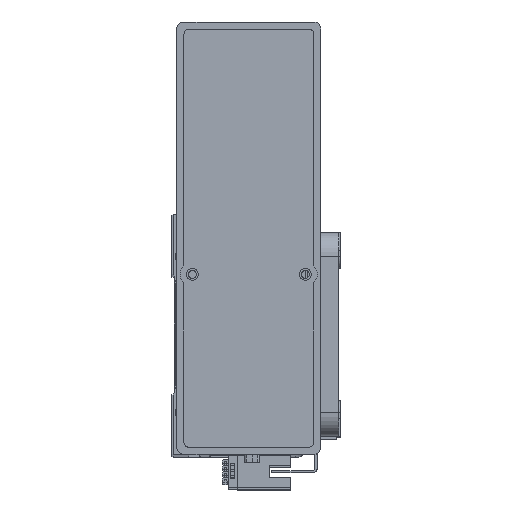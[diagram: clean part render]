
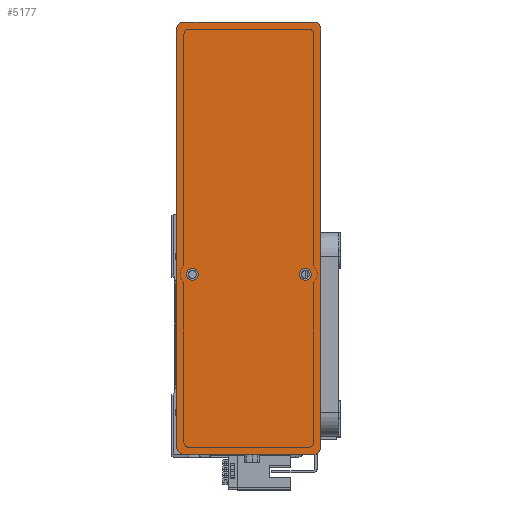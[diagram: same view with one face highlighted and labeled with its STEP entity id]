
A CAD part, top view. The second image highlights one B-rep face of the part: STEP entity #5177.
In plain terms, the highlighted planar face has unit normal (0, 0, 1) as drawn and (0, 0, -1) by its records, which use the part's own axes.
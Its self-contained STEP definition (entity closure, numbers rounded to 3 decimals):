
#152 = EDGE_CURVE ( 'NONE', #18841, #39145, #20765, .T. ) ;
#348 = DIRECTION ( 'NONE',  ( 0., 0., -1. ) ) ;
#412 = CARTESIAN_POINT ( 'NONE',  ( 90., -30., 0. ) ) ;
#690 = VERTEX_POINT ( 'NONE', #30798 ) ;
#1176 = AXIS2_PLACEMENT_3D ( 'NONE', #55703, #28867, #2041 ) ;
#2041 = DIRECTION ( 'NONE',  ( 1., 0., 0. ) ) ;
#2502 = LINE ( 'NONE', #52250, #36866 ) ;
#2778 = DIRECTION ( 'NONE',  ( -1., 0., 0. ) ) ;
#3951 = FACE_BOUND ( 'NONE', #19183, .T. ) ;
#4522 = EDGE_CURVE ( 'NONE', #38477, #54876, #11069, .T. ) ;
#4831 = AXIS2_PLACEMENT_3D ( 'NONE', #37101, #10261, #41609 ) ;
#5177 = ADVANCED_FACE ( 'NONE', ( #26398, #3951, #50229 ), #53019, .F. ) ;
#6440 = VERTEX_POINT ( 'NONE', #51587 ) ;
#7401 = EDGE_CURVE ( 'NONE', #6440, #9988, #2502, .T. ) ;
#7467 = CARTESIAN_POINT ( 'NONE',  ( -87., 30., 0. ) ) ;
#8244 = VERTEX_POINT ( 'NONE', #23556 ) ;
#8329 = CARTESIAN_POINT ( 'NONE',  ( -17.5, -23.5, 0. ) ) ;
#8374 = DIRECTION ( 'NONE',  ( 1., 0., 0. ) ) ;
#9381 = CARTESIAN_POINT ( 'NONE',  ( -87., 27., 0. ) ) ;
#9459 = CARTESIAN_POINT ( 'NONE',  ( 87., 27., 0. ) ) ;
#9893 = CARTESIAN_POINT ( 'NONE',  ( -90., -27., 0. ) ) ;
#9988 = VERTEX_POINT ( 'NONE', #13788 ) ;
#10261 = DIRECTION ( 'NONE',  ( 0., 0., -1. ) ) ;
#10416 = CIRCLE ( 'NONE', #1176, 3. ) ;
#10645 = CARTESIAN_POINT ( 'NONE',  ( 90., 30., 0. ) ) ;
#11069 = LINE ( 'NONE', #19630, #45417 ) ;
#11595 = DIRECTION ( 'NONE',  ( 0., 0., -1. ) ) ;
#11711 = AXIS2_PLACEMENT_3D ( 'NONE', #27222, #348, #31715 ) ;
#12116 = ORIENTED_EDGE ( 'NONE', *, *, #4522, .F. ) ;
#12269 = CARTESIAN_POINT ( 'NONE',  ( 0., 0., 0. ) ) ;
#12318 = EDGE_CURVE ( 'NONE', #8244, #39145, #38967, .T. ) ;
#13550 = CIRCLE ( 'NONE', #4831, 2.5 ) ;
#13788 = CARTESIAN_POINT ( 'NONE',  ( 87., -30., 0. ) ) ;
#13894 = DIRECTION ( 'NONE',  ( 1., 0., 0. ) ) ;
#13981 = DIRECTION ( 'NONE',  ( 1., 0., 0. ) ) ;
#14256 = AXIS2_PLACEMENT_3D ( 'NONE', #38479, #11595, #42978 ) ;
#14458 = CARTESIAN_POINT ( 'NONE',  ( -90., 27., 0. ) ) ;
#14575 = CIRCLE ( 'NONE', #33735, 2.5 ) ;
#14806 = AXIS2_PLACEMENT_3D ( 'NONE', #9381, #40729, #13894 ) ;
#15203 = DIRECTION ( 'NONE',  ( -1., 0., 0. ) ) ;
#16675 = VERTEX_POINT ( 'NONE', #8329 ) ;
#16972 = EDGE_CURVE ( 'NONE', #36110, #690, #13550, .T. ) ;
#18325 = EDGE_LOOP ( 'NONE', ( #32331, #19761 ) ) ;
#18841 = VERTEX_POINT ( 'NONE', #38897 ) ;
#19183 = EDGE_LOOP ( 'NONE', ( #22030, #39529 ) ) ;
#19630 = CARTESIAN_POINT ( 'NONE',  ( -90., -30., 0. ) ) ;
#19761 = ORIENTED_EDGE ( 'NONE', *, *, #16972, .F. ) ;
#20765 = LINE ( 'NONE', #412, #22143 ) ;
#22030 = ORIENTED_EDGE ( 'NONE', *, *, #44296, .F. ) ;
#22143 = VECTOR ( 'NONE', #27101, 1000. ) ;
#23556 = CARTESIAN_POINT ( 'NONE',  ( 87., 30., 0. ) ) ;
#24068 = DIRECTION ( 'NONE',  ( 0., -1., 0. ) ) ;
#24908 = ORIENTED_EDGE ( 'NONE', *, *, #152, .F. ) ;
#26181 = CARTESIAN_POINT ( 'NONE',  ( -15., 23.5, 0. ) ) ;
#26398 = FACE_BOUND ( 'NONE', #18325, .T. ) ;
#27009 = ORIENTED_EDGE ( 'NONE', *, *, #48136, .T. ) ;
#27101 = DIRECTION ( 'NONE',  ( 0., 1., 0. ) ) ;
#27222 = CARTESIAN_POINT ( 'NONE',  ( -15., -23.5, 0. ) ) ;
#28496 = ORIENTED_EDGE ( 'NONE', *, *, #44321, .T. ) ;
#28867 = DIRECTION ( 'NONE',  ( 0., 0., -1. ) ) ;
#29541 = CIRCLE ( 'NONE', #11711, 2.5 ) ;
#29605 = DIRECTION ( 'NONE',  ( 0., 0., -1. ) ) ;
#30165 = CARTESIAN_POINT ( 'NONE',  ( 90., 27., 0. ) ) ;
#30691 = DIRECTION ( 'NONE',  ( -1., 0., 0. ) ) ;
#30798 = CARTESIAN_POINT ( 'NONE',  ( -17.5, 23.5, 0. ) ) ;
#31715 = DIRECTION ( 'NONE',  ( -1., 0., 0. ) ) ;
#32331 = ORIENTED_EDGE ( 'NONE', *, *, #54673, .F. ) ;
#32765 = VERTEX_POINT ( 'NONE', #7467 ) ;
#32917 = EDGE_LOOP ( 'NONE', ( #24908, #27009, #48332, #45791, #12116, #28496, #53122, #43485 ) ) ;
#33735 = AXIS2_PLACEMENT_3D ( 'NONE', #56460, #29605, #2778 ) ;
#35179 = DIRECTION ( 'NONE',  ( 0., 0., 1. ) ) ;
#35523 = EDGE_CURVE ( 'NONE', #8244, #32765, #39198, .T. ) ;
#36110 = VERTEX_POINT ( 'NONE', #49158 ) ;
#36866 = VECTOR ( 'NONE', #47710, 1000. ) ;
#37101 = CARTESIAN_POINT ( 'NONE',  ( -15., 23.5, 0. ) ) ;
#37206 = AXIS2_PLACEMENT_3D ( 'NONE', #9459, #40811, #13981 ) ;
#38477 = VERTEX_POINT ( 'NONE', #14458 ) ;
#38479 = CARTESIAN_POINT ( 'NONE',  ( 87., -27., 0. ) ) ;
#38897 = CARTESIAN_POINT ( 'NONE',  ( 90., -27., 0. ) ) ;
#38967 = CIRCLE ( 'NONE', #37206, 3. ) ;
#39145 = VERTEX_POINT ( 'NONE', #30165 ) ;
#39198 = LINE ( 'NONE', #10645, #49707 ) ;
#39529 = ORIENTED_EDGE ( 'NONE', *, *, #53037, .F. ) ;
#40729 = DIRECTION ( 'NONE',  ( 0., 0., -1. ) ) ;
#40811 = DIRECTION ( 'NONE',  ( 0., 0., -1. ) ) ;
#41609 = DIRECTION ( 'NONE',  ( -1., 0., 0. ) ) ;
#42482 = CIRCLE ( 'NONE', #14256, 3. ) ;
#42978 = DIRECTION ( 'NONE',  ( 1., 0., 0. ) ) ;
#43485 = ORIENTED_EDGE ( 'NONE', *, *, #12318, .T. ) ;
#44296 = EDGE_CURVE ( 'NONE', #16675, #54174, #29541, .T. ) ;
#44321 = EDGE_CURVE ( 'NONE', #38477, #32765, #53375, .T. ) ;
#45417 = VECTOR ( 'NONE', #24068, 1000. ) ;
#45791 = ORIENTED_EDGE ( 'NONE', *, *, #55029, .T. ) ;
#47710 = DIRECTION ( 'NONE',  ( 1., 0., 0. ) ) ;
#48136 = EDGE_CURVE ( 'NONE', #18841, #9988, #42482, .T. ) ;
#48332 = ORIENTED_EDGE ( 'NONE', *, *, #7401, .F. ) ;
#49158 = CARTESIAN_POINT ( 'NONE',  ( -12.5, 23.5, 0. ) ) ;
#49609 = AXIS2_PLACEMENT_3D ( 'NONE', #26181, #57504, #30691 ) ;
#49707 = VECTOR ( 'NONE', #15203, 1000. ) ;
#50229 = FACE_OUTER_BOUND ( 'NONE', #32917, .T. ) ;
#51587 = CARTESIAN_POINT ( 'NONE',  ( -87., -30., 0. ) ) ;
#52250 = CARTESIAN_POINT ( 'NONE',  ( 90., -30., 0. ) ) ;
#52592 = CARTESIAN_POINT ( 'NONE',  ( -12.5, -23.5, 0. ) ) ;
#53019 = PLANE ( 'NONE',  #57546 ) ;
#53037 = EDGE_CURVE ( 'NONE', #54174, #16675, #14575, .T. ) ;
#53122 = ORIENTED_EDGE ( 'NONE', *, *, #35523, .F. ) ;
#53375 = CIRCLE ( 'NONE', #14806, 3. ) ;
#54173 = CIRCLE ( 'NONE', #49609, 2.5 ) ;
#54174 = VERTEX_POINT ( 'NONE', #52592 ) ;
#54673 = EDGE_CURVE ( 'NONE', #690, #36110, #54173, .T. ) ;
#54876 = VERTEX_POINT ( 'NONE', #9893 ) ;
#55029 = EDGE_CURVE ( 'NONE', #6440, #54876, #10416, .T. ) ;
#55703 = CARTESIAN_POINT ( 'NONE',  ( -87., -27., 0. ) ) ;
#56460 = CARTESIAN_POINT ( 'NONE',  ( -15., -23.5, 0. ) ) ;
#57504 = DIRECTION ( 'NONE',  ( 0., 0., -1. ) ) ;
#57546 = AXIS2_PLACEMENT_3D ( 'NONE', #12269, #35179, #8374 ) ;
